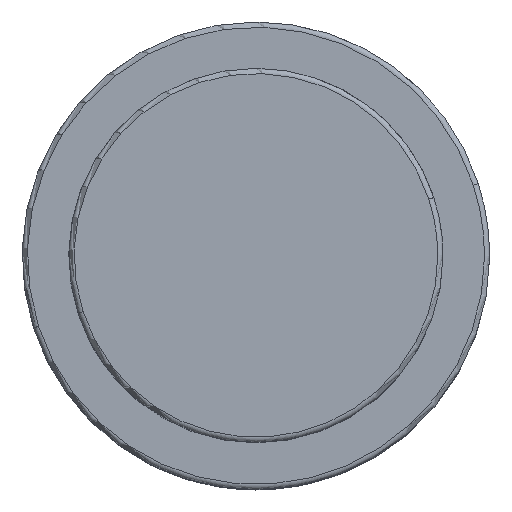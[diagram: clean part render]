
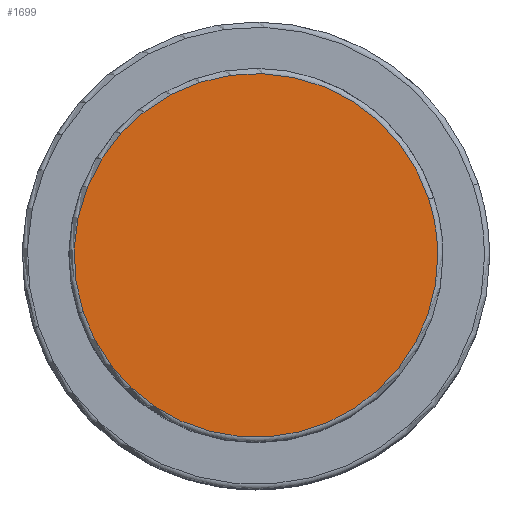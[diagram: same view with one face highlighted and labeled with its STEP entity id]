
A CAD part, top view. The second image highlights one B-rep face of the part: STEP entity #1699.
In plain terms, the highlighted planar face has unit normal (0, 0, 1).
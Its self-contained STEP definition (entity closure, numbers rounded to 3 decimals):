
#1665=CARTESIAN_POINT('',(17.5,0.0,48.0));
#1666=VERTEX_POINT('',#1665);
#1667=CARTESIAN_POINT('',(16.643,5.408,48.0));
#1668=VERTEX_POINT('',#1667);
#1669=CARTESIAN_POINT('',(0.0,0.0,48.0));
#1670=DIRECTION('',(0.0,0.0,1.0));
#1671=DIRECTION('',(1.0,0.0,0.0));
#1672=AXIS2_PLACEMENT_3D('',#1669,#1670,#1671);
#1673=CIRCLE('',#1672,17.5);
#1674=EDGE_CURVE('no 1878',#1666,#1668,#1673,.T.);
#1675=ORIENTED_EDGE('',*,*,#1674,.T.);
#1676=CARTESIAN_POINT('',(-16.643,-5.408,48.0));
#1677=VERTEX_POINT('',#1676);
#1678=CARTESIAN_POINT('',(0.0,0.0,48.0));
#1679=DIRECTION('',(0.0,0.0,1.0));
#1680=DIRECTION('',(1.0,0.0,0.0));
#1681=AXIS2_PLACEMENT_3D('',#1678,#1679,#1680);
#1682=CIRCLE('',#1681,17.5);
#1683=EDGE_CURVE('no 1884',#1668,#1677,#1682,.T.);
#1684=ORIENTED_EDGE('',*,*,#1683,.T.);
#1685=CARTESIAN_POINT('',(0.0,0.0,48.0));
#1686=DIRECTION('',(0.0,0.0,1.0));
#1687=DIRECTION('',(1.0,0.0,0.0));
#1688=AXIS2_PLACEMENT_3D('',#1685,#1686,#1687);
#1689=CIRCLE('',#1688,17.5);
#1690=EDGE_CURVE('no 1888',#1677,#1666,#1689,.T.);
#1691=ORIENTED_EDGE('',*,*,#1690,.T.);
#1692=EDGE_LOOP('',(#1675,#1684,#1691));
#1693=FACE_OUTER_BOUND('',#1692,.T.);
#1694=CARTESIAN_POINT('',(0.0,0.0,48.0));
#1695=DIRECTION('',(0.0,0.0,1.0));
#1696=DIRECTION('',(1.0,0.0,0.0));
#1697=AXIS2_PLACEMENT_3D('',#1694,#1695,#1696);
#1698=PLANE('',#1697);
#1699=ADVANCED_FACE('no 1869',(#1693),#1698,.T.);
